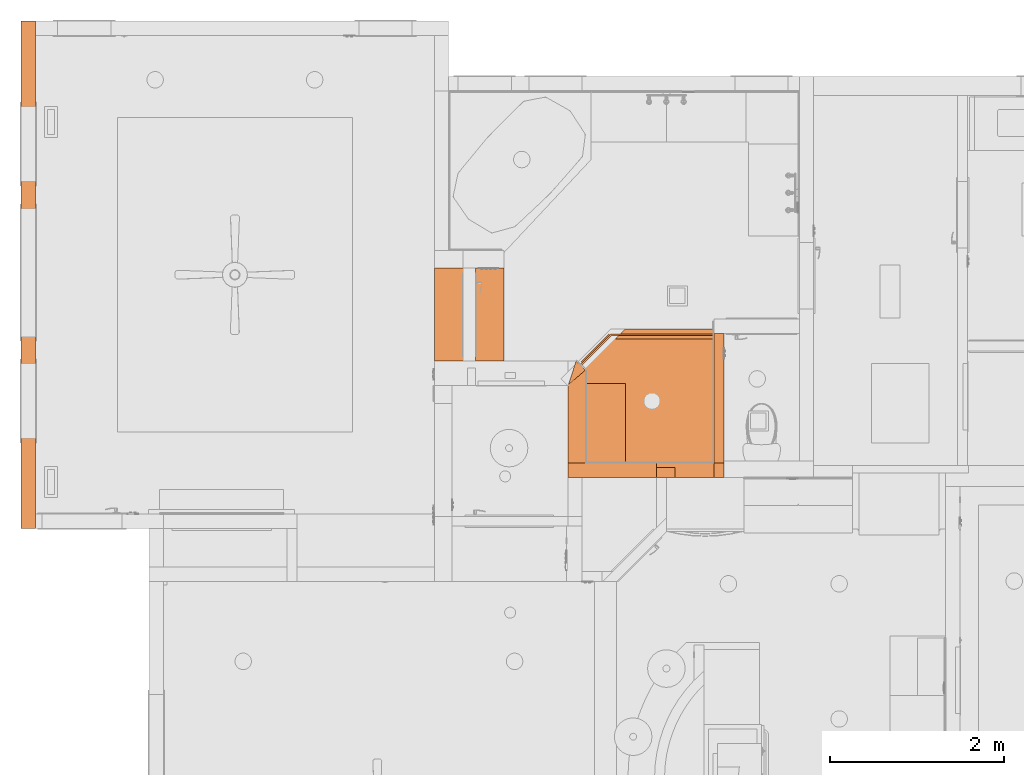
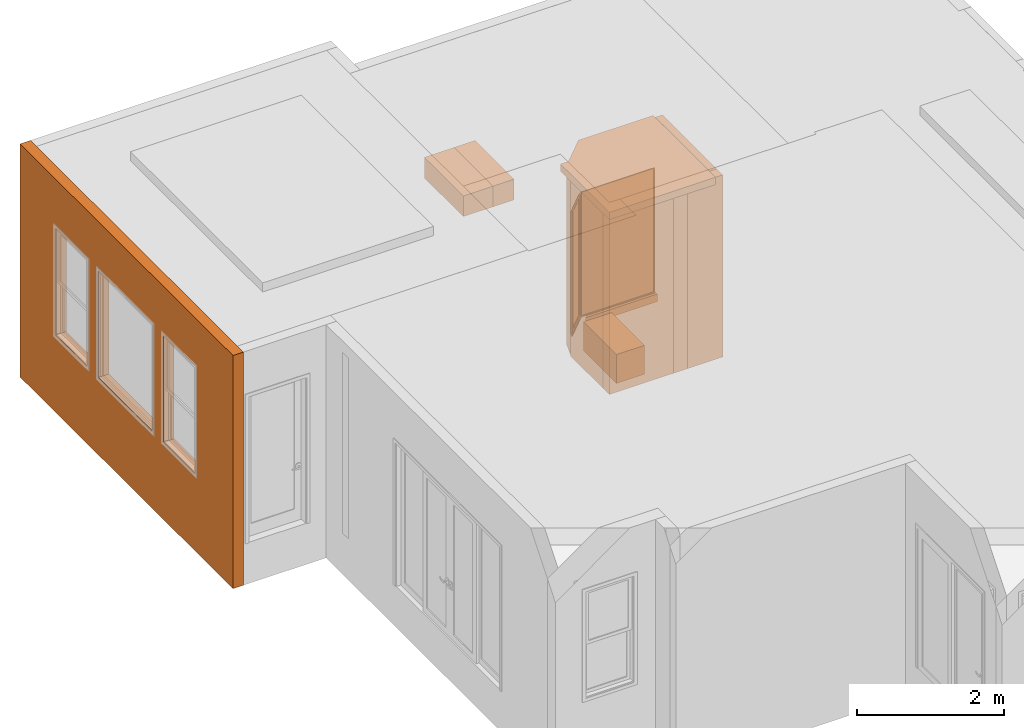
# One storey, part 89 of 103: 13 proxies.
"""IFC2X3 building model written with IfcOpenShell, lengths in inches."""

from ifc_helpers import new_model, entity, si_unit, converted_unit, derived_unit, money_unit, direction, frame, origin_with_axes, place, context, subcontext, project, spatial, open_shell, faceted_brep, surface_model, material, type_object, element, save


model = new_model("IFC2X3")

# Units and contexts
model_context = context("Model", 3, precision=0.00039370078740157, world=origin_with_axes(), true_north=direction((0.0, 1.0)))
plan_context = context("Plan", 3, precision=0.00039370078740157, world=origin_with_axes(), true_north=direction((0.0, 1.0)))
body_context = subcontext(model_context, "Body", "Model", "MODEL_VIEW")
ifc_project = project(units=[converted_unit("LENGTHUNIT", "INCH", entity("IfcPositiveLengthMeasure", 0.0254), si_unit("LENGTHUNIT", "METRE"), dimensions=[1, 0, 0, 0, 0, 0, 0]), converted_unit("AREAUNIT", "SQUARE_FOOT", entity("IfcPositiveLengthMeasure", 0.09290304), si_unit("AREAUNIT", "SQUARE_METRE"), dimensions=[2, 0, 0, 0, 0, 0, 0]), si_unit("PLANEANGLEUNIT", "RADIAN"), si_unit("SOLIDANGLEUNIT", "STERADIAN"), money_unit("USD"), converted_unit("TIMEUNIT", "Year", entity("IfcTimeMeasure", 31557600.0), si_unit("TIMEUNIT", "SECOND"), dimensions=[0, 0, 1, 0, 0, 0, 0]), si_unit("MASSUNIT", "GRAM", prefix="KILO"), si_unit("THERMODYNAMICTEMPERATUREUNIT", "DEGREE_CELSIUS"), si_unit("LUMINOUSINTENSITYUNIT", "LUMEN"), si_unit("ENERGYUNIT", "JOULE", prefix="MEGA"), derived_unit("SPECIFICHEATCAPACITYUNIT", [(si_unit("ENERGYUNIT", "JOULE"), 1), (si_unit("MASSUNIT", "GRAM", prefix="KILO"), -1), (si_unit("THERMODYNAMICTEMPERATUREUNIT", "KELVIN"), -1)])], contexts=[model_context, plan_context])

# Site, building, storey
site_placement = place(None, origin_with_axes())
site = spatial("IfcSite", under=ifc_project, at=site_placement, Name="Site", CompositionType="ELEMENT")
building_placement = place(site_placement, origin_with_axes())
building = spatial("IfcBuilding", under=site, at=building_placement, Name="Building", CompositionType="ELEMENT")
storey_placement = place(building_placement, frame((0.0, 0.0, 127.9999999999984), z_axis=(0.0, 0.0, 1.0), x_axis=(1.0, 0.0, 0.0)))
storey = spatial("IfcBuildingStorey", under=building, at=storey_placement, Name="Second Floor", CompositionType="ELEMENT", Elevation=128.0)

# Proxies
ifc_material = material(Name="Generic - Structural")
building_element_proxy_type_1 = type_object("IfcBuildingElementProxyType", Name="Generic - Structural 6 1/2\"", PredefinedType="NOTDEFINED")
proxy_1_placement = place(storey_placement, frame((-15.49999999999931, 395.5009092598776, 0.0), z_axis=(0.0, 0.0, 1.0), x_axis=(1.0, 2.792901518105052e-10, 0.0)))
element("IfcBuildingElementProxy", 1, at=proxy_1_placement, inside=storey, type_object=building_element_proxy_type_1, material=ifc_material, Name="SW - 102", context=body_context, shape_type="Brep", body=[
    faceted_brep([(0.0, 0.0, 114.7499999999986), (39.99999999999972, -1.117160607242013e-08, 114.7499999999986), (40.00000000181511, 6.499999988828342, 114.7499999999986), (1.815385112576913e-09, 6.499999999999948, 114.7499999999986), (0.0, 0.0, 0.0), (39.99999999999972, -1.117160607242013e-08, 0.0), (40.00000000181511, 6.499999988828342, 0.0), (1.815385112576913e-09, 6.499999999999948, 0.0)], [[[0, 1, 2, 3]], [[4, 5, 1, 0]], [[2, 1, 5, 6]], [[3, 2, 6, 7]], [[4, 0, 3, 7]], [[7, 6, 5, 4]]]),
])
proxy_2_placement = place(storey_placement, frame((-255.7499999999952, 378.9999999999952, -26.99999999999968), z_axis=(0.0, 0.0, 1.0), x_axis=(0.0, 1.0, 0.0)))
element("IfcBuildingElementProxy", 2, at=proxy_2_placement, inside=storey, type_object=building_element_proxy_type_1, material=ifc_material, Name="SW - 121", context=body_context, shape_type="Brep", body=[
    faceted_brep([(-6.499999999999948, 6.499999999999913, 152.9999999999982), (222.4999999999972, 6.499999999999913, 152.9999999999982), (222.4999999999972, 6.499999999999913, 0.0), (-6.499999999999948, 6.499999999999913, 0.0), (67.9999999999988, 6.499999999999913, 120.9999999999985), (33.9999999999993, 6.499999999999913, 120.9999999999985), (33.9999999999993, 6.499999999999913, 50.99999999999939), (67.9999999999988, 6.499999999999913, 50.99999999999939), (183.9999999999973, 6.499999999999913, 50.99999999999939), (183.9999999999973, 6.499999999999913, 120.9999999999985), (149.9999999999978, 6.499999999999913, 120.9999999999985), (149.9999999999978, 6.499999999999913, 50.99999999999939), (79.99999999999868, 6.499999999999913, 50.99999999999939), (137.9999999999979, 6.499999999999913, 50.99999999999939), (137.9999999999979, 6.499999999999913, 120.9999999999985), (79.99999999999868, 6.499999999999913, 120.9999999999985), (-6.499999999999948, 0.0, 152.9999999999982), (222.4999999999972, 0.0, 152.9999999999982), (222.4999999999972, 0.0, 0.0), (-6.499999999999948, 0.0, 0.0), (67.9999999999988, 0.0, 120.9999999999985), (33.9999999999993, 0.0, 120.9999999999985), (33.9999999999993, 0.0, 50.99999999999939), (67.9999999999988, 0.0, 50.99999999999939), (183.9999999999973, 0.0, 120.9999999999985), (183.9999999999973, 0.0, 50.99999999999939), (149.9999999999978, 0.0, 120.9999999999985), (149.9999999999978, 0.0, 50.99999999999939), (79.99999999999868, 0.0, 50.99999999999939), (137.9999999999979, 0.0, 50.99999999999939), (137.9999999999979, 0.0, 120.9999999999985), (79.99999999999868, 0.0, 120.9999999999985)], [[[0, 1, 2, 3], [4, 5, 6, 7], [8, 9, 10, 11], [12, 13, 14, 15]], [[16, 17, 1, 0]], [[2, 1, 17, 18]], [[3, 2, 18, 19]], [[3, 19, 16, 0]], [[5, 4, 20, 21]], [[6, 5, 21, 22]], [[7, 6, 22, 23]], [[4, 7, 23, 20]], [[24, 9, 8, 25]], [[26, 10, 9, 24]], [[27, 11, 10, 26]], [[25, 8, 11, 27]], [[28, 29, 13, 12]], [[29, 30, 14, 13]], [[30, 31, 15, 14]], [[31, 28, 12, 15]], [[19, 18, 17, 16], [20, 23, 22, 21], [26, 24, 25, 27], [28, 31, 30, 29]]]),
])
proxy_3_placement = place(storey_placement, frame((29.00000000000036, 395.5009092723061, 0.0), z_axis=(0.0, 0.0, 1.0), x_axis=(1.0, 0.0, 0.0)))
element("IfcBuildingElementProxy", 3, at=proxy_3_placement, inside=storey, type_object=building_element_proxy_type_1, material=ifc_material, Name="SW - 102", context=body_context, shape_type="Brep", body=[
    faceted_brep([(-4.499999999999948, 6.499999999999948, 0.0), (-4.499999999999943, 6.499999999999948, 114.7499999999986), (21.49999723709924, 6.499999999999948, 114.7499999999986), (21.49999723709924, 6.499999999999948, 119.4999999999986), (26.00000000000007, 6.499999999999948, 119.4999999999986), (26.00000000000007, 6.499999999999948, 0.0), (-4.499999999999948, 4.49999999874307, 0.0), (-4.499999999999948, 4.49999999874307, 114.7499999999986), (21.49999784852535, -3.63395060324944e-06, 114.7499999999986), (3.937007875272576, 4.49999999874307, 114.7499999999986), (3.93700787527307, -5.286022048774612e-06, 114.7499999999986), (21.49999784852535, -3.63395060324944e-06, 119.4999999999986), (26.00000000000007, 0.0, 119.4999999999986), (26.00000000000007, 0.0, 0.0), (3.937007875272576, -1.256877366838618e-09, 0.0), (3.937007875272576, 4.49999999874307, 0.0)], [[[0, 1, 2, 3, 4, 5]], [[6, 7, 1, 0]], [[8, 2, 1, 7, 9, 10]], [[8, 11, 3, 2]], [[4, 3, 11, 12]], [[12, 13, 5, 4]], [[13, 14, 15, 6, 0, 5]], [[15, 9, 7, 6]], [[14, 10, 9, 15]], [[11, 8, 10, 14, 13, 12]]]),
])
building_element_proxy_type_2 = type_object("IfcBuildingElementProxyType", Name="Generic - Structural 4 1/2\"", PredefinedType="NOTDEFINED")
proxy_4_placement = place(storey_placement, frame((24.50000000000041, 395.5009092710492, 0.0), z_axis=(0.0, 0.0, 1.0), x_axis=(1.0, 2.793060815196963e-10, 0.0)))
element("IfcBuildingElementProxy", 4, at=proxy_4_placement, inside=storey, type_object=building_element_proxy_type_2, material=ifc_material, Name="SW - 102", context=body_context, shape_type="Brep", body=[
    faceted_brep([(8.437007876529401, 4.499999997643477, 114.7499999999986), (1.256877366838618e-09, 4.499999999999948, 114.7499999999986), (0.0, 0.0, 114.7499999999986), (8.437007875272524, -2.356470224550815e-09, 114.7499999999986), (8.437007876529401, 4.499999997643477, 0.0), (1.256877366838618e-09, 4.499999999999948, 0.0), (0.0, 0.0, 0.0), (8.437007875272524, -2.356470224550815e-09, 0.0)], [[[0, 1, 2, 3]], [[4, 5, 1, 0]], [[1, 5, 6, 2]], [[3, 2, 6, 7]], [[7, 4, 0, 3]], [[7, 6, 5, 4]]]),
])
proxy_5_placement = place(storey_placement, frame((5.832500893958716, 457.9999968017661, -5.99999999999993), z_axis=(0.0, 0.0, 1.0), x_axis=(1.0, 0.0, 0.0)))
element("IfcBuildingElementProxy", 5, at=proxy_5_placement, inside=storey, type_object=building_element_proxy_type_2, material=ifc_material, Name="SW - 138", context=body_context, shape_type="Brep", body=[
    faceted_brep([(44.66749910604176, 0.0, 10.99999999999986), (44.66749910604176, 0.0, 5.99999999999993), (44.66749910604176, 4.499999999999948, 5.99999999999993), (44.66749910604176, 4.499999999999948, 10.99999999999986), (0.0, 0.0, 10.99999999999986), (0.0, 0.0, 5.99999999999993), (4.499999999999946, 4.499999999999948, 5.99999999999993), (4.499999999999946, 4.499999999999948, 10.99999999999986)], [[[0, 1, 2, 3]], [[4, 5, 1, 0]], [[5, 6, 2, 1]], [[3, 2, 6, 7]], [[7, 4, 0, 3]], [[7, 6, 5, 4]]]),
])
proxy_6_placement = place(storey_placement, frame((55.00000000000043, 395.5009092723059, 0.0), z_axis=(0.0, 0.0, 1.0), x_axis=(0.0, 1.0, 0.0)))
element("IfcBuildingElementProxy", 6, at=proxy_6_placement, inside=storey, type_object=building_element_proxy_type_2, material=ifc_material, Name="SW - 135", context=body_context, shape_type="Brep", body=[
    faceted_brep([(64.99999999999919, 4.499999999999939, 119.4999999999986), (6.500000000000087, 4.499999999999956, 119.4999999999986), (6.500000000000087, 0.0, 119.4999999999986), (64.99999999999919, 0.0, 119.4999999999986), (64.99999999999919, 4.49999999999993, 0.0), (6.500000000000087, 4.499999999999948, 0.0), (6.500000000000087, 0.0, 0.0), (64.99999999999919, 0.0, 0.0)], [[[0, 1, 2, 3]], [[4, 5, 1, 0]], [[5, 6, 2, 1]], [[3, 2, 6, 7]], [[4, 0, 3, 7]], [[7, 6, 5, 4]]]),
])
building_element_proxy_type_3 = type_object("IfcBuildingElementProxyType", Name="Generic - Structural 10 1/2\"", PredefinedType="NOTDEFINED")
proxy_7_placement = place(storey_placement, frame((-7.49999999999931, 444.0009094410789, 0.0), z_axis=(0.0, 0.0, 1.0), x_axis=(-0.7282777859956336, 0.6852820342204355, 0.0)))
element("IfcBuildingElementProxy", 7, at=proxy_7_placement, inside=storey, type_object=building_element_proxy_type_3, material=ifc_material, Name="SW - 116", context=body_context, shape_type="Brep", body=[
    faceted_brep([(0.0, 0.0, 0.0), (5.83568565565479, -2.984356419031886e-08, 0.0), (5.83568565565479, -2.984356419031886e-08, 114.7499999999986), (0.0, 0.0, 114.7499999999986), (1.074870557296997, 10.2163466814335, 0.0), (1.074870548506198, 10.21634670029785, 114.7499999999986)], [[[0, 1, 2, 3]], [[0, 4, 1]], [[4, 5, 2, 1]], [[3, 2, 5]], [[3, 5, 4, 0]]]),
])
building_element_proxy_type_4 = type_object("IfcBuildingElementProxyType", Name="Generic - Structural 8\"", PredefinedType="NOTDEFINED")
proxy_8_placement = place(storey_placement, frame((-7.49999999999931, 395.500909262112, 0.0), z_axis=(0.0, 0.0, 1.0), x_axis=(0.0, 1.0, 0.0)))
element("IfcBuildingElementProxy", 8, at=proxy_8_placement, inside=storey, type_object=building_element_proxy_type_4, material=ifc_material, Name="SW - 116", context=body_context, shape_type="Brep", body=[
    faceted_brep([(6.499999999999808, 0.0, 114.7499999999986), (6.499999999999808, 0.0, 0.0), (48.50000017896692, 0.0, 0.0), (48.50000017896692, 0.0, 114.7499999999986), (6.499999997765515, 7.999999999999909, 114.7499999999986), (6.499999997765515, 7.999999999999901, 0.0), (41.61012405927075, 7.999999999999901, 0.0), (41.61012405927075, 7.999999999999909, 114.7499999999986)], [[[0, 1, 2, 3]], [[1, 0, 4, 5]], [[5, 6, 2, 1]], [[6, 7, 3, 2]], [[3, 7, 4, 0]], [[4, 7, 6, 5]]]),
])
building_element_proxy_type_5 = type_object("IfcBuildingElementProxyType", Name="Shower Door", PredefinedType="NOTDEFINED")
proxy_9_placement = place(storey_placement, frame((49.99999462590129, 436.3042005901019, 4.99999999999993), z_axis=(0.0, 0.0, 1.0), x_axis=(-0.9999999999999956, -9.406550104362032e-08, 0.0)))
element("IfcBuildingElementProxy", 9, at=proxy_9_placement, inside=storey, type_object=building_element_proxy_type_5, Name="OBJ-23", context=body_context, shape_type="SurfaceModel", body=[
    faceted_brep([(45.68920671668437, -23.24999999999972, 0.0), (45.99999999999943, -23.9999999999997, 0.0), (45.99999999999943, -23.9999999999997, 81.99999999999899), (45.68920671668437, -23.24999999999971, 81.99999999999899), (59.09450937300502, -9.836572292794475, 0.0), (59.62500010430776, -10.36674168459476, 0.0), (59.62500010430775, -10.36674168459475, 81.99999999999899), (46.53016939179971, -23.46950926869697, 0.7499999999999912), (46.53016939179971, -23.46950926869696, 81.24999999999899), (59.09483071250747, -10.89723241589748, 81.24999999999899), (59.09483071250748, -10.89723241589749, 0.7499999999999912), (59.09450937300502, -9.836572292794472, 81.99999999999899), (45.99967866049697, -22.93933987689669, 81.24999999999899), (45.99967866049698, -22.93933987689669, 0.7499999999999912), (58.56433998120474, -10.36706302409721, 0.7499999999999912), (58.56433998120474, -10.3670630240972, 81.24999999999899)], [[[0, 1, 2, 3]], [[1, 0, 4, 5]], [[1, 5, 6, 2], [7, 8, 9, 10]], [[3, 2, 6, 11]], [[0, 3, 11, 4], [12, 13, 14, 15]], [[4, 11, 6, 5]], [[7, 13, 12, 8]], [[8, 12, 15, 9]], [[15, 14, 10, 9]], [[13, 7, 10, 14]]]),
    faceted_brep([(46.41738789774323, -23.35679609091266, 0.7499999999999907), (58.982049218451, -10.78451923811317, 0.7499999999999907), (59.53899486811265, -11.3411275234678, 0.7499999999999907), (46.97433354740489, -23.91340437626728, 0.7499999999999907), (46.41738789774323, -23.35679609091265, 81.24999999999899), (58.98204921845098, -10.78451923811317, 81.24999999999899), (47.83534750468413, -21.93797704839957, 2.75590551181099), (57.56408961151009, -12.20333828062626, 2.75590551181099), (57.56408961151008, -12.20333828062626, 79.244094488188), (47.83534750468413, -21.93797704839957, 79.244094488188), (59.53899486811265, -11.3411275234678, 81.24999999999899), (46.97433354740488, -23.91340437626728, 81.24999999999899), (48.39229315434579, -22.4945853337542, 2.75590551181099), (48.39229315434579, -22.49458533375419, 79.244094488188), (58.12103526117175, -12.75994656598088, 79.244094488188), (58.12103526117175, -12.75994656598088, 2.75590551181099)], [[[0, 1, 2, 3]], [[0, 4, 5, 1], [6, 7, 8, 9]], [[1, 5, 10, 2]], [[3, 2, 10, 11], [12, 13, 14, 15]], [[4, 0, 3, 11]], [[5, 4, 11, 10]], [[7, 6, 12, 15]], [[8, 7, 15, 14]], [[9, 8, 14, 13]], [[6, 9, 13, 12]]]),
    surface_model("IfcShellBasedSurfaceModel", [(48.11382032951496, -22.21628119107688, 2.75590551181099), (57.84256243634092, -12.48164242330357, 2.75590551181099), (57.84256243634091, -12.48164242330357, 79.24409448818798), (48.11382032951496, -22.21628119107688, 79.24409448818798)], [open_shell([[[0, 1, 2, 3]]])]),
    faceted_brep([(0.0, -23.9999999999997, 81.99999999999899), (0.0, -23.9999999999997, 0.0), (45.99999999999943, -23.9999999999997, 0.0), (45.99999999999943, -23.9999999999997, 81.99999999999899), (45.24999999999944, -23.9999999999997, 0.7499999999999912), (0.7499999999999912, -23.9999999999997, 0.7499999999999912), (0.7499999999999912, -23.9999999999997, 81.24999999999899), (45.24999999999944, -23.9999999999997, 81.24999999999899), (0.0, -23.24999999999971, 81.99999999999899), (0.0, -23.24999999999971, 0.0), (45.68920671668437, -23.24999999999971, 0.0), (45.68920671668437, -23.24999999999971, 81.99999999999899), (45.24999999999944, -23.24999999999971, 0.7499999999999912), (0.7499999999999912, -23.24999999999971, 0.7499999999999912), (0.7499999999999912, -23.24999999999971, 81.24999999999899), (45.24999999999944, -23.24999999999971, 81.24999999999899)], [[[0, 1, 2, 3], [4, 5, 6, 7]], [[1, 0, 8, 9]], [[1, 9, 10, 2]], [[3, 2, 10, 11]], [[8, 0, 3, 11]], [[12, 13, 5, 4]], [[13, 14, 6, 5]], [[14, 15, 7, 6]], [[4, 7, 15, 12]], [[9, 8, 11, 10], [13, 12, 15, 14]]]),
    surface_model("IfcShellBasedSurfaceModel", [(0.7499999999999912, -23.62499999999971, 0.7499999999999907), (45.24999999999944, -23.62499999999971, 0.7499999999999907), (45.24999999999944, -23.6249999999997, 81.24999999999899), (0.7499999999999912, -23.6249999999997, 81.24999999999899)], [open_shell([[[0, 1, 2, 3]]])]),
])
building_element_proxy_type_6 = type_object("IfcBuildingElementProxyType", Name="Generic - Structural 4 3/4\"", PredefinedType="NOTDEFINED")
proxy_10_placement = place(storey_placement, frame((-15.49999638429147, 395.5008994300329, 114.7499999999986), z_axis=(0.0, 0.0, 1.0), x_axis=(1.0, 0.0, 0.0)))
element("IfcBuildingElementProxy", 10, at=proxy_10_placement, inside=storey, type_object=building_element_proxy_type_6, material=ifc_material, Name="SLA - 005", context=body_context, shape_type="Brep", body=[
    faceted_brep([(0.0, 0.0, 4.749999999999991), (0.0, 0.0, 0.0), (65.99999423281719, 6.208322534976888e-06, 0.0), (65.99999423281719, 6.208322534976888e-06, 4.749999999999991), (-4.938353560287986e-06, 52.49909062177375, 4.749999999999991), (-4.938353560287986e-06, 52.49909062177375, 0.0), (3.749990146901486, 52.49909097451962, 0.0), (4.377791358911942, 51.90835349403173, 0.0), (19.46873691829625, 66.99909257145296, 0.0), (65.99998793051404, 66.99909694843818, 0.0), (65.99998793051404, 66.99909694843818, 4.749999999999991), (19.46873691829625, 66.99909257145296, 4.749999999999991), (4.377791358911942, 51.90835349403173, 4.749999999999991), (3.749990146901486, 52.49909097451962, 4.749999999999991)], [[[0, 1, 2, 3]], [[4, 5, 1, 0]], [[1, 5, 6, 7, 8, 9, 2]], [[3, 2, 9, 10]], [[4, 0, 3, 10, 11, 12, 13]], [[13, 6, 5, 4]], [[12, 7, 6, 13]], [[11, 8, 7, 12]], [[10, 9, 8, 11]]]),
])
building_element_proxy_type_7 = type_object("IfcBuildingElementProxyType", Name="Generic - Structural 13 1/2\"", PredefinedType="NOTDEFINED")
proxy_11_placement = place(storey_placement, frame((-75.74999999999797, 447.999999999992, 105.9999999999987), z_axis=(0.0, 0.0, 1.0), x_axis=(1.0, 0.0, 0.0)))
element("IfcBuildingElementProxy", 11, at=proxy_11_placement, inside=storey, type_object=building_element_proxy_type_7, material=ifc_material, Name="SLA - 003", context=body_context, shape_type="Brep", body=[
    faceted_brep([(0.0, 0.0, 13.49999999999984), (0.0, 0.0, 0.0), (31.50000062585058, 0.0, 0.0), (31.50000062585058, 0.0, 13.49999999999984), (0.0, 42.00000000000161, 13.49999999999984), (0.0, 42.00000000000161, 0.0), (31.50000000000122, 42.00000000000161, 0.0), (31.50000000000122, 42.00000000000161, 13.49999999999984)], [[[0, 1, 2, 3]], [[4, 5, 1, 0]], [[2, 1, 5, 6]], [[3, 2, 6, 7]], [[4, 0, 3, 7]], [[7, 6, 5, 4]]]),
])
proxy_12_placement = place(storey_placement, frame((-44.25001042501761, 489.9999874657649, 105.9999999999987), z_axis=(0.0, 0.0, 1.0), x_axis=(1.0, 0.0, 0.0)))
element("IfcBuildingElementProxy", 12, at=proxy_12_placement, inside=storey, type_object=building_element_proxy_type_7, material=ifc_material, Name="SLA - 003", context=body_context, shape_type="Brep", body=[
    faceted_brep([(0.0, 0.0, 13.49999999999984), (0.0, 0.0, 0.0), (-12.99999858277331, -2.93691546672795e-05, 0.0), (-12.99999858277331, -2.93691546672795e-05, 13.49999999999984), (4.576600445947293e-06, -42.00000000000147, 13.49999999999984), (4.576600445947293e-06, -42.00000000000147, 0.0), (-12.99999463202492, -42.00000122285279, 0.0), (-12.99999463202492, -42.00000122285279, 13.49999999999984)], [[[0, 1, 2, 3]], [[4, 5, 1, 0]], [[2, 1, 5, 6]], [[3, 2, 6, 7]], [[4, 0, 3, 7]], [[7, 6, 5, 4]]]),
])
building_element_proxy_type_8 = type_object("IfcBuildingElementProxyType", Name="Generic - Structural 19\"", PredefinedType="NOTDEFINED")
proxy_13_placement = place(storey_placement, frame((10.49999212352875, 438.0009018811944, 0.0), z_axis=(0.0, 0.0, 1.0), x_axis=(1.0, 0.0, 0.0)))
element("IfcBuildingElementProxy", 13, at=proxy_13_placement, inside=storey, type_object=building_element_proxy_type_8, material=ifc_material, Name="SLA - 005", context=body_context, shape_type="Brep", body=[
    faceted_brep([(0.0, 0.0, 18.99999999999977), (0.0, 0.0, 0.0), (-17.49999766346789, -1.649221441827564e-06, 0.0), (-17.49999766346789, -1.649221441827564e-06, 18.99999999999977), (3.345564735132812e-06, -35.50000000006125, 18.99999999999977), (3.345564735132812e-06, -35.50000000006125, 0.0), (-17.49999431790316, -35.50000164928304, 0.0), (-17.49999431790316, -35.50000164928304, 18.99999999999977)], [[[0, 1, 2, 3]], [[4, 5, 1, 0]], [[2, 1, 5, 6]], [[3, 2, 6, 7]], [[4, 0, 3, 7]], [[7, 6, 5, 4]]]),
])

save(model, "model.ifc")
